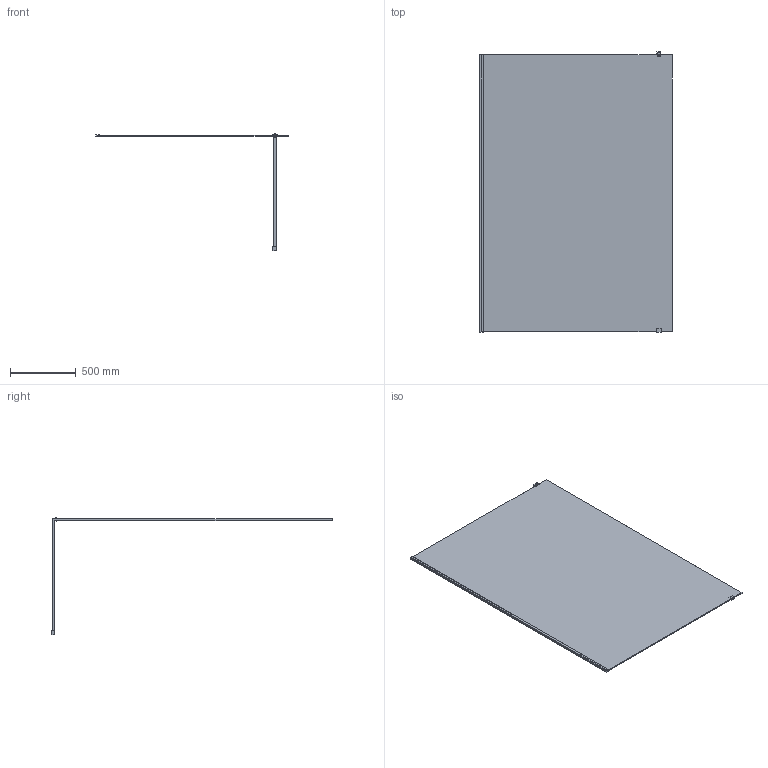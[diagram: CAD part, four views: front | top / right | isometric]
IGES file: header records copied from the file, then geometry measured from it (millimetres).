
Start section: SolidWorks IGES file using analytic representation for surfaces
Global section: file name: D:\Users\M.Szymanski\Desktop\Kabiny\PIII_ALTIIa\03. do przegrania\PIII_ALTIIa_150_K3D.IGS; native system: SolidWorks 2011; preprocessor: SolidWorks 2011; author: M.Szymanski; date: 181005.105114; units: millimetre
Bounding box: 1458.45 x 2128 x 894.4 mm (x, y, z)
Surface area: 6433024.1 mm2 (no closed solid volume)
Topology: 0 solids, 0 shells, 52 faces, 372 edges, 496 vertices
Faces by surface type: bspline 52
